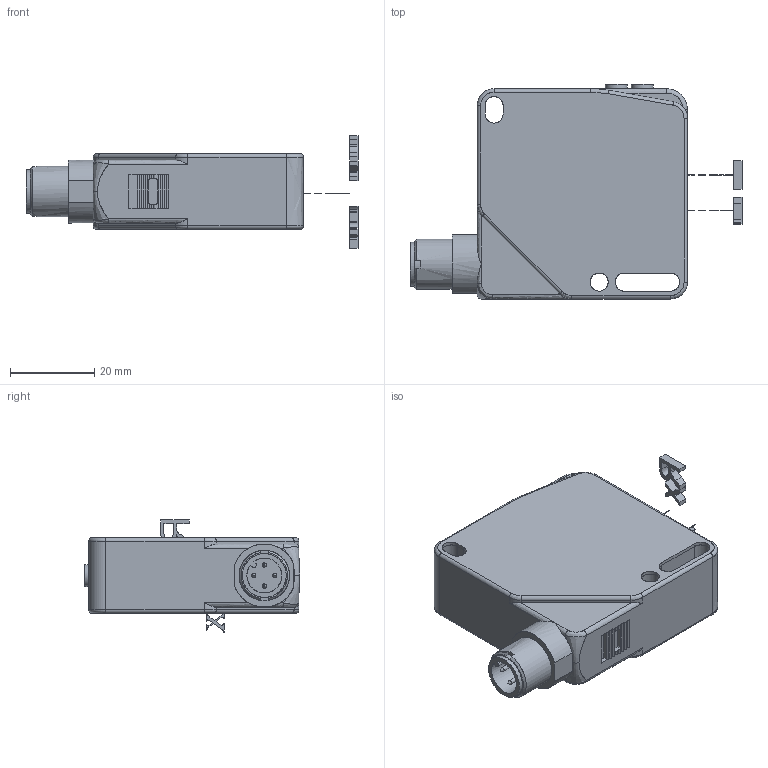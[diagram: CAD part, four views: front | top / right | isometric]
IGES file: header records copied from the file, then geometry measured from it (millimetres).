
Start section: JAMA-IS VERSION  1.0
Global section: file name: D:\CS\IDF\S6_DSD\DSD-0137b S62L-B Conn2.igs; native system: NX V7.5; preprocessor: SIEMENS PLM Software NX 7.5; date: 141028.153028; units: millimetre
Bounding box: 79 x 51.28 x 26.68 mm (x, y, z)
Surface area: 11455.2 mm2 (no closed solid volume)
Topology: 0 solids, 0 shells, 593 faces, 4901 edges, 4862 vertices
Faces by surface type: bspline 593
